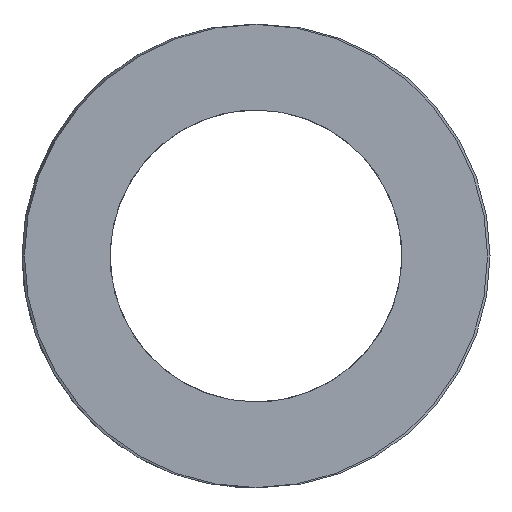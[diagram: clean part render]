
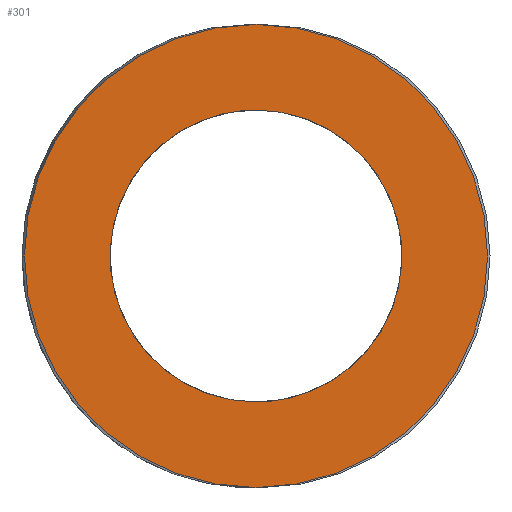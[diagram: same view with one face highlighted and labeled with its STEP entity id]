
A CAD part, left-side view. The second image highlights one B-rep face of the part: STEP entity #301.
In plain terms, the highlighted planar face has unit normal (-1, 0, 0).
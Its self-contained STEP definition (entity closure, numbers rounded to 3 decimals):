
#63=CARTESIAN_POINT('Vertex',(0.,31.1,0.)) ;
#77=CARTESIAN_POINT('Vertex',(0.,-31.1,0.)) ;
#80=CARTESIAN_POINT('Axis2P3D Location',(0.,0.,0.)) ;
#97=CARTESIAN_POINT('Axis2P3D Location',(0.,0.,0.)) ;
#232=CARTESIAN_POINT('Axis2P3D Location',(0.,15.55,0.)) ;
#242=CARTESIAN_POINT('Control Point',(0.,0.,-19.6)) ;
#243=CARTESIAN_POINT('Control Point',(0.,1.952,-19.6)) ;
#244=CARTESIAN_POINT('Control Point',(0.,3.904,-19.357)) ;
#245=CARTESIAN_POINT('Control Point',(0.,5.816,-18.871)) ;
#246=CARTESIAN_POINT('Control Point',(0.,9.478,-17.433)) ;
#247=CARTESIAN_POINT('Control Point',(0.,12.675,-15.142)) ;
#248=CARTESIAN_POINT('Control Point',(0.,14.123,-13.802)) ;
#249=CARTESIAN_POINT('Control Point',(0.,16.653,-10.789)) ;
#250=CARTESIAN_POINT('Control Point',(0.,18.368,-7.249)) ;
#251=CARTESIAN_POINT('Control Point',(0.,19.,-5.38)) ;
#252=CARTESIAN_POINT('Control Point',(0.,19.784,-1.525)) ;
#253=CARTESIAN_POINT('Control Point',(0.,19.6,2.405)) ;
#254=CARTESIAN_POINT('Control Point',(0.,19.262,4.348)) ;
#255=CARTESIAN_POINT('Control Point',(0.,18.11,8.11)) ;
#256=CARTESIAN_POINT('Control Point',(0.,16.071,11.474)) ;
#257=CARTESIAN_POINT('Control Point',(0.,14.846,13.02)) ;
#258=CARTESIAN_POINT('Control Point',(0.,12.037,15.775)) ;
#259=CARTESIAN_POINT('Control Point',(0.,8.639,17.757)) ;
#260=CARTESIAN_POINT('Control Point',(0.,6.824,18.53)) ;
#261=CARTESIAN_POINT('Control Point',(0.,4.349,19.236)) ;
#262=CARTESIAN_POINT('Control Point',(0.,1.809,19.53)) ;
#263=CARTESIAN_POINT('Control Point',(0.,1.206,19.577)) ;
#264=CARTESIAN_POINT('Control Point',(0.,0.603,19.6)) ;
#265=CARTESIAN_POINT('Control Point',(0.,0.,19.6)) ;
#266=CARTESIAN_POINT('Vertex',(0.,0.,-19.6)) ;
#268=CARTESIAN_POINT('Vertex',(0.,0.,19.6)) ;
#272=CARTESIAN_POINT('Control Point',(0.,0.,19.6)) ;
#273=CARTESIAN_POINT('Control Point',(0.,-1.952,19.6)) ;
#274=CARTESIAN_POINT('Control Point',(0.,-3.904,19.357)) ;
#275=CARTESIAN_POINT('Control Point',(0.,-5.816,18.871)) ;
#276=CARTESIAN_POINT('Control Point',(0.,-9.478,17.433)) ;
#277=CARTESIAN_POINT('Control Point',(0.,-12.675,15.142)) ;
#278=CARTESIAN_POINT('Control Point',(0.,-14.123,13.802)) ;
#279=CARTESIAN_POINT('Control Point',(0.,-16.653,10.789)) ;
#280=CARTESIAN_POINT('Control Point',(0.,-18.368,7.249)) ;
#281=CARTESIAN_POINT('Control Point',(0.,-19.,5.38)) ;
#282=CARTESIAN_POINT('Control Point',(0.,-19.784,1.525)) ;
#283=CARTESIAN_POINT('Control Point',(0.,-19.6,-2.405)) ;
#284=CARTESIAN_POINT('Control Point',(0.,-19.262,-4.348)) ;
#285=CARTESIAN_POINT('Control Point',(0.,-18.11,-8.11)) ;
#286=CARTESIAN_POINT('Control Point',(0.,-16.071,-11.474)) ;
#287=CARTESIAN_POINT('Control Point',(0.,-14.846,-13.02)) ;
#288=CARTESIAN_POINT('Control Point',(0.,-12.037,-15.775)) ;
#289=CARTESIAN_POINT('Control Point',(0.,-8.639,-17.757)) ;
#290=CARTESIAN_POINT('Control Point',(0.,-6.824,-18.53)) ;
#291=CARTESIAN_POINT('Control Point',(0.,-4.349,-19.236)) ;
#292=CARTESIAN_POINT('Control Point',(0.,-1.809,-19.53)) ;
#293=CARTESIAN_POINT('Control Point',(0.,-1.206,-19.577)) ;
#294=CARTESIAN_POINT('Control Point',(0.,-0.603,-19.6)) ;
#295=CARTESIAN_POINT('Control Point',(0.,0.,-19.6)) ;
#81=DIRECTION('Axis2P3D Direction',(1.,-0.,0.)) ;
#98=DIRECTION('Axis2P3D Direction',(1.,-0.,0.)) ;
#233=DIRECTION('Axis2P3D Direction',(-1.,0.,0.)) ;
#234=DIRECTION('Axis2P3D XDirection',(0.,1.,0.)) ;
#82=AXIS2_PLACEMENT_3D('Circle Axis2P3D',#80,#81,$) ;
#99=AXIS2_PLACEMENT_3D('Circle Axis2P3D',#97,#98,$) ;
#235=AXIS2_PLACEMENT_3D('Plane Axis2P3D',#232,#233,#234) ;
#238=ORIENTED_EDGE('',*,*,#84,.T.) ;
#239=ORIENTED_EDGE('',*,*,#101,.T.) ;
#298=ORIENTED_EDGE('',*,*,#270,.T.) ;
#299=ORIENTED_EDGE('',*,*,#296,.T.) ;
#300=FACE_BOUND('',#297,.T.) ;
#301=ADVANCED_FACE('392-B63-115',(#240,#300),#236,.T.) ;
#241=B_SPLINE_CURVE_WITH_KNOTS('',5,(#242,#243,#244,#245,#246,#247,#248,#249,#250,#251,#252,#253,#254,#255,#256,#257,#258,#259,#260,#261,#262,#263,#264,#265),.UNSPECIFIED.,.F.,.U.,(6,3,3,3,3,3,3,6),(0.,13.802,27.605,41.407,55.21,69.012,82.815,87.077),.UNSPECIFIED.) ;
#271=B_SPLINE_CURVE_WITH_KNOTS('',5,(#272,#273,#274,#275,#276,#277,#278,#279,#280,#281,#282,#283,#284,#285,#286,#287,#288,#289,#290,#291,#292,#293,#294,#295),.UNSPECIFIED.,.F.,.U.,(6,3,3,3,3,3,3,6),(0.,13.802,27.605,41.407,55.21,69.012,82.815,87.077),.UNSPECIFIED.) ;
#83=CIRCLE('generated circle',#82,31.1) ;
#100=CIRCLE('generated circle',#99,31.1) ;
#84=EDGE_CURVE('',#64,#78,#83,.F.) ;
#101=EDGE_CURVE('',#78,#64,#100,.F.) ;
#270=EDGE_CURVE('',#267,#269,#241,.T.) ;
#296=EDGE_CURVE('',#269,#267,#271,.T.) ;
#237=EDGE_LOOP('',(#238,#239)) ;
#297=EDGE_LOOP('',(#298,#299)) ;
#240=FACE_OUTER_BOUND('',#237,.T.) ;
#236=PLANE('Plane',#235) ;
#64=VERTEX_POINT('',#63) ;
#78=VERTEX_POINT('',#77) ;
#267=VERTEX_POINT('',#266) ;
#269=VERTEX_POINT('',#268) ;
